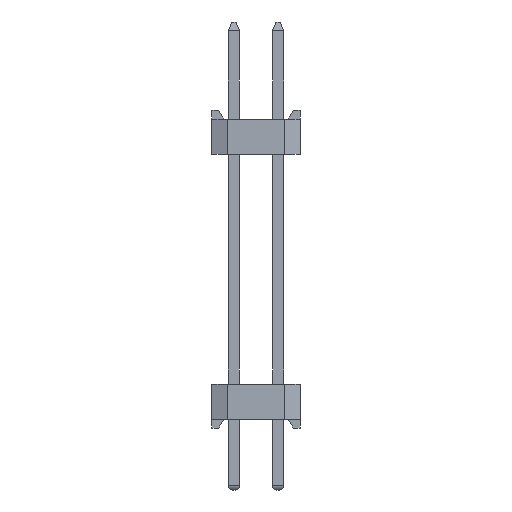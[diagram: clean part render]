
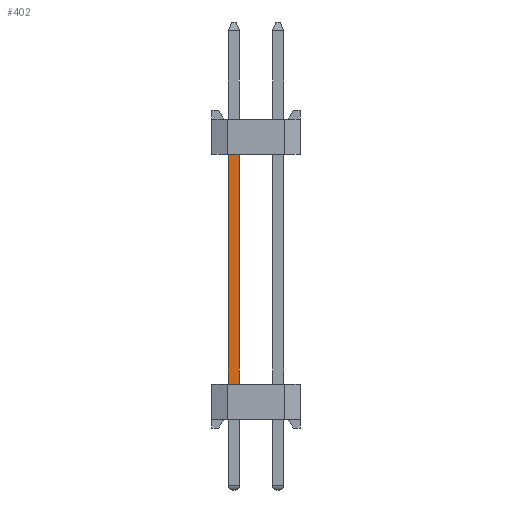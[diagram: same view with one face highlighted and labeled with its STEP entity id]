
A CAD part, left-side view. The second image highlights one B-rep face of the part: STEP entity #402.
In plain terms, the highlighted planar face has unit normal (-1, 0, 0).
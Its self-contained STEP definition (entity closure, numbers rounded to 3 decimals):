
#402=ADVANCED_FACE('',(#1914),#1202,.T.);
#1202=PLANE('',#15155);
#1914=FACE_OUTER_BOUND('',#2758,.T.);
#2758=EDGE_LOOP('',(#4350,#4351,#4352,#4353));
#4350=ORIENTED_EDGE('',*,*,#9106,.T.);
#4351=ORIENTED_EDGE('',*,*,#9588,.T.);
#4352=ORIENTED_EDGE('',*,*,#9589,.F.);
#4353=ORIENTED_EDGE('',*,*,#9590,.F.);
#7778=VERTEX_POINT('',#19961);
#7779=VERTEX_POINT('',#19962);
#8146=VERTEX_POINT('',#20905);
#8147=VERTEX_POINT('',#20907);
#9106=EDGE_CURVE('',#7778,#7779,#11186,.T.);
#9588=EDGE_CURVE('',#7779,#8146,#11668,.T.);
#9589=EDGE_CURVE('',#8147,#8146,#11669,.T.);
#9590=EDGE_CURVE('',#7778,#8147,#11670,.T.);
#11186=LINE('',#19960,#13178);
#11668=LINE('',#20904,#13660);
#11669=LINE('',#20906,#13661);
#11670=LINE('',#20908,#13662);
#13178=VECTOR('',#16081,1.);
#13660=VECTOR('',#16751,1.);
#13661=VECTOR('',#16752,1.);
#13662=VECTOR('',#16753,1.);
#15155=AXIS2_PLACEMENT_3D('',#20909,#16754,#16755);
#16081=DIRECTION('',(0.,-1.,0.));
#16751=DIRECTION('',(0.,0.,1.));
#16752=DIRECTION('',(0.,-1.,0.));
#16753=DIRECTION('',(0.,0.,1.));
#16754=DIRECTION('',(-1.,0.,0.));
#16755=DIRECTION('',(0.,0.,1.));
#19960=CARTESIAN_POINT('',(0.75,3.25,1.6));
#19961=CARTESIAN_POINT('',(0.75,3.25,1.6));
#19962=CARTESIAN_POINT('',(0.75,2.75,1.6));
#20904=CARTESIAN_POINT('',(0.75,2.75,6.8));
#20905=CARTESIAN_POINT('',(0.75,2.75,12.));
#20906=CARTESIAN_POINT('',(0.75,3.25,12.));
#20907=CARTESIAN_POINT('',(0.75,3.25,12.));
#20908=CARTESIAN_POINT('',(0.75,3.25,6.8));
#20909=CARTESIAN_POINT('',(0.75,3.25,1.6));
